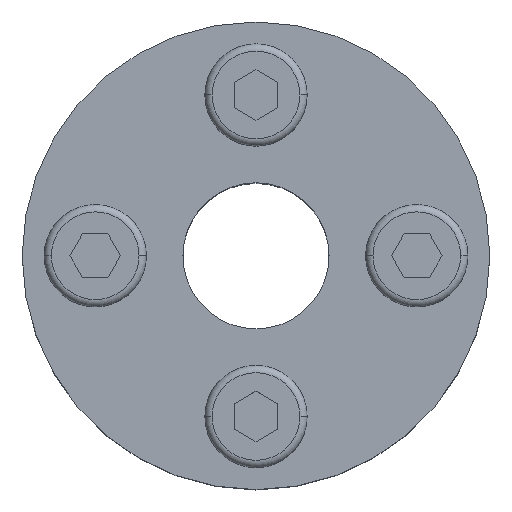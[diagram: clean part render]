
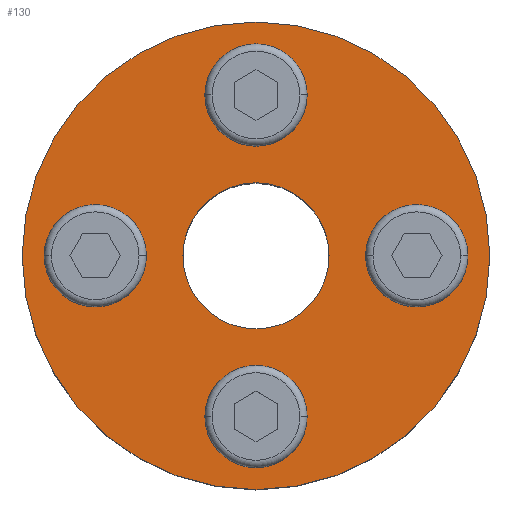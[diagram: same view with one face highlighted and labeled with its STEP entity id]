
A CAD part, top view. The second image highlights one B-rep face of the part: STEP entity #130.
In plain terms, the highlighted planar face has unit normal (0, 0, 1).
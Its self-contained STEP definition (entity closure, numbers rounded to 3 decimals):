
#19 = ORIENTED_EDGE ( 'NONE', *, *, #1543, .T. ) ;
#23 = DIRECTION ( 'NONE',  ( 0., 0., 1. ) ) ;
#37 = DIRECTION ( 'NONE',  ( 0., 0., 1. ) ) ;
#45 = AXIS2_PLACEMENT_3D ( 'NONE', #156, #23, #1577 ) ;
#50 = DIRECTION ( 'NONE',  ( 1., 0., 0. ) ) ;
#59 = CARTESIAN_POINT ( 'NONE',  ( 7.5, 0., 0. ) ) ;
#66 = ORIENTED_EDGE ( 'NONE', *, *, #229, .F. ) ;
#70 = ORIENTED_EDGE ( 'NONE', *, *, #352, .F. ) ;
#79 = AXIS2_PLACEMENT_3D ( 'NONE', #610, #998, #1125 ) ;
#83 = DIRECTION ( 'NONE',  ( -1., 0., 0. ) ) ;
#101 = AXIS2_PLACEMENT_3D ( 'NONE', #167, #1074, #942 ) ;
#107 = CARTESIAN_POINT ( 'NONE',  ( 0., -11., 0. ) ) ;
#115 = AXIS2_PLACEMENT_3D ( 'NONE', #1285, #1031, #1539 ) ;
#123 = EDGE_CURVE ( 'NONE', #1231, #1419, #823, .T. ) ;
#130 = ADVANCED_FACE ( 'NONE', ( #1659, #741, #530, #1483, #1516, #1313 ), #619, .F. ) ;
#156 = CARTESIAN_POINT ( 'NONE',  ( -11., 0., 0. ) ) ;
#167 = CARTESIAN_POINT ( 'NONE',  ( 0., 11., 0. ) ) ;
#178 = CARTESIAN_POINT ( 'NONE',  ( 3.5, -11., 0. ) ) ;
#229 = EDGE_CURVE ( 'NONE', #848, #1085, #1008, .T. ) ;
#248 = CIRCLE ( 'NONE', #270, 3.5 ) ;
#257 = EDGE_CURVE ( 'NONE', #1419, #1231, #1361, .T. ) ;
#270 = AXIS2_PLACEMENT_3D ( 'NONE', #787, #1197, #1265 ) ;
#280 = AXIS2_PLACEMENT_3D ( 'NONE', #1351, #559, #1339 ) ;
#298 = CARTESIAN_POINT ( 'NONE',  ( -7.5, 0., 0. ) ) ;
#324 = EDGE_CURVE ( 'NONE', #1290, #1528, #1638, .T. ) ;
#337 = DIRECTION ( 'NONE',  ( -1., 0., 0. ) ) ;
#345 = CARTESIAN_POINT ( 'NONE',  ( 5., 0., 0. ) ) ;
#352 = EDGE_CURVE ( 'NONE', #1207, #510, #248, .T. ) ;
#365 = CIRCLE ( 'NONE', #377, 16. ) ;
#377 = AXIS2_PLACEMENT_3D ( 'NONE', #1302, #1040, #642 ) ;
#378 = EDGE_CURVE ( 'NONE', #1107, #1021, #847, .T. ) ;
#419 = AXIS2_PLACEMENT_3D ( 'NONE', #845, #1110, #50 ) ;
#429 = AXIS2_PLACEMENT_3D ( 'NONE', #1209, #1364, #1611 ) ;
#435 = CARTESIAN_POINT ( 'NONE',  ( -16., 0., 0. ) ) ;
#453 = CARTESIAN_POINT ( 'NONE',  ( -5., 0., 0. ) ) ;
#467 = EDGE_LOOP ( 'NONE', ( #19, #857 ) ) ;
#498 = ORIENTED_EDGE ( 'NONE', *, *, #688, .F. ) ;
#510 = VERTEX_POINT ( 'NONE', #59 ) ;
#530 = FACE_BOUND ( 'NONE', #692, .T. ) ;
#555 = CARTESIAN_POINT ( 'NONE',  ( 0., -11., 0. ) ) ;
#559 = DIRECTION ( 'NONE',  ( 0., 0., 1. ) ) ;
#591 = CARTESIAN_POINT ( 'NONE',  ( 0., 11., 0. ) ) ;
#592 = EDGE_LOOP ( 'NONE', ( #1253, #1029 ) ) ;
#610 = CARTESIAN_POINT ( 'NONE',  ( -5., 0., 0. ) ) ;
#619 = PLANE ( 'NONE',  #79 ) ;
#642 = DIRECTION ( 'NONE',  ( 1., 0., 0. ) ) ;
#688 = EDGE_CURVE ( 'NONE', #510, #1207, #745, .T. ) ;
#692 = EDGE_LOOP ( 'NONE', ( #1437, #856 ) ) ;
#741 = FACE_BOUND ( 'NONE', #1458, .T. ) ;
#742 = DIRECTION ( 'NONE',  ( 0., 0., 1. ) ) ;
#745 = CIRCLE ( 'NONE', #429, 3.5 ) ;
#755 = EDGE_LOOP ( 'NONE', ( #1438, #1545 ) ) ;
#778 = DIRECTION ( 'NONE',  ( 0., 0., 1. ) ) ;
#782 = EDGE_CURVE ( 'NONE', #1335, #1189, #973, .T. ) ;
#787 = CARTESIAN_POINT ( 'NONE',  ( 11., 0., 0. ) ) ;
#805 = CARTESIAN_POINT ( 'NONE',  ( 0., 0., 0. ) ) ;
#823 = CIRCLE ( 'NONE', #1250, 3.5 ) ;
#845 = CARTESIAN_POINT ( 'NONE',  ( 0., 0., 0. ) ) ;
#847 = CIRCLE ( 'NONE', #45, 3.5 ) ;
#848 = VERTEX_POINT ( 'NONE', #1245 ) ;
#856 = ORIENTED_EDGE ( 'NONE', *, *, #123, .F. ) ;
#857 = ORIENTED_EDGE ( 'NONE', *, *, #324, .T. ) ;
#867 = CIRCLE ( 'NONE', #1280, 3.5 ) ;
#912 = DIRECTION ( 'NONE',  ( 1., 0., 0. ) ) ;
#942 = DIRECTION ( 'NONE',  ( -1., 0., 0. ) ) ;
#969 = CIRCLE ( 'NONE', #115, 3.5 ) ;
#971 = CARTESIAN_POINT ( 'NONE',  ( 14.5, 0., 0. ) ) ;
#973 = CIRCLE ( 'NONE', #280, 5. ) ;
#998 = DIRECTION ( 'NONE',  ( 0., 0., -1. ) ) ;
#1006 = EDGE_LOOP ( 'NONE', ( #66, #1492 ) ) ;
#1007 = CARTESIAN_POINT ( 'NONE',  ( -14.5, 0., 0. ) ) ;
#1008 = CIRCLE ( 'NONE', #101, 3.5 ) ;
#1021 = VERTEX_POINT ( 'NONE', #1007 ) ;
#1029 = ORIENTED_EDGE ( 'NONE', *, *, #378, .F. ) ;
#1031 = DIRECTION ( 'NONE',  ( 0., 0., 1. ) ) ;
#1040 = DIRECTION ( 'NONE',  ( 0., 0., 1. ) ) ;
#1065 = CARTESIAN_POINT ( 'NONE',  ( 3.5, 11., 0. ) ) ;
#1074 = DIRECTION ( 'NONE',  ( 0., 0., 1. ) ) ;
#1077 = DIRECTION ( 'NONE',  ( -1., 0., 0. ) ) ;
#1085 = VERTEX_POINT ( 'NONE', #1065 ) ;
#1107 = VERTEX_POINT ( 'NONE', #298 ) ;
#1110 = DIRECTION ( 'NONE',  ( 0., 0., 1. ) ) ;
#1125 = DIRECTION ( 'NONE',  ( -1., 0., 0. ) ) ;
#1160 = EDGE_CURVE ( 'NONE', #1189, #1335, #1429, .T. ) ;
#1189 = VERTEX_POINT ( 'NONE', #453 ) ;
#1197 = DIRECTION ( 'NONE',  ( 0., 0., 1. ) ) ;
#1207 = VERTEX_POINT ( 'NONE', #971 ) ;
#1209 = CARTESIAN_POINT ( 'NONE',  ( 11., 0., 0. ) ) ;
#1231 = VERTEX_POINT ( 'NONE', #178 ) ;
#1245 = CARTESIAN_POINT ( 'NONE',  ( -3.5, 11., 0. ) ) ;
#1250 = AXIS2_PLACEMENT_3D ( 'NONE', #107, #742, #83 ) ;
#1253 = ORIENTED_EDGE ( 'NONE', *, *, #1471, .F. ) ;
#1265 = DIRECTION ( 'NONE',  ( -1., 0., 0. ) ) ;
#1267 = CARTESIAN_POINT ( 'NONE',  ( -3.5, -11., 0. ) ) ;
#1273 = AXIS2_PLACEMENT_3D ( 'NONE', #805, #778, #912 ) ;
#1280 = AXIS2_PLACEMENT_3D ( 'NONE', #591, #1505, #337 ) ;
#1285 = CARTESIAN_POINT ( 'NONE',  ( -11., 0., 0. ) ) ;
#1290 = VERTEX_POINT ( 'NONE', #435 ) ;
#1302 = CARTESIAN_POINT ( 'NONE',  ( 0., 0., 0. ) ) ;
#1313 = FACE_OUTER_BOUND ( 'NONE', #467, .T. ) ;
#1335 = VERTEX_POINT ( 'NONE', #345 ) ;
#1339 = DIRECTION ( 'NONE',  ( 1., 0., 0. ) ) ;
#1351 = CARTESIAN_POINT ( 'NONE',  ( 0., 0., 0. ) ) ;
#1361 = CIRCLE ( 'NONE', #1524, 3.5 ) ;
#1364 = DIRECTION ( 'NONE',  ( 0., 0., 1. ) ) ;
#1397 = EDGE_CURVE ( 'NONE', #1085, #848, #867, .T. ) ;
#1419 = VERTEX_POINT ( 'NONE', #1267 ) ;
#1429 = CIRCLE ( 'NONE', #419, 5. ) ;
#1437 = ORIENTED_EDGE ( 'NONE', *, *, #257, .F. ) ;
#1438 = ORIENTED_EDGE ( 'NONE', *, *, #782, .F. ) ;
#1458 = EDGE_LOOP ( 'NONE', ( #498, #70 ) ) ;
#1471 = EDGE_CURVE ( 'NONE', #1021, #1107, #969, .T. ) ;
#1483 = FACE_BOUND ( 'NONE', #592, .T. ) ;
#1492 = ORIENTED_EDGE ( 'NONE', *, *, #1397, .F. ) ;
#1505 = DIRECTION ( 'NONE',  ( 0., 0., 1. ) ) ;
#1516 = FACE_BOUND ( 'NONE', #755, .T. ) ;
#1524 = AXIS2_PLACEMENT_3D ( 'NONE', #555, #37, #1077 ) ;
#1528 = VERTEX_POINT ( 'NONE', #1534 ) ;
#1534 = CARTESIAN_POINT ( 'NONE',  ( 16., 0., 0. ) ) ;
#1539 = DIRECTION ( 'NONE',  ( -1., 0., 0. ) ) ;
#1543 = EDGE_CURVE ( 'NONE', #1528, #1290, #365, .T. ) ;
#1545 = ORIENTED_EDGE ( 'NONE', *, *, #1160, .F. ) ;
#1577 = DIRECTION ( 'NONE',  ( -1., 0., 0. ) ) ;
#1611 = DIRECTION ( 'NONE',  ( -1., 0., 0. ) ) ;
#1638 = CIRCLE ( 'NONE', #1273, 16. ) ;
#1659 = FACE_BOUND ( 'NONE', #1006, .T. ) ;
